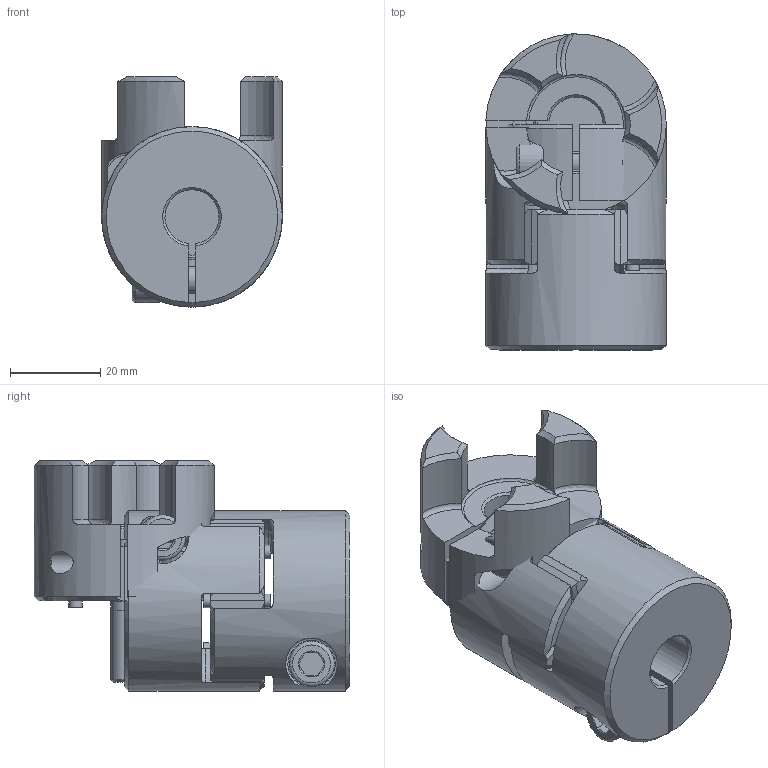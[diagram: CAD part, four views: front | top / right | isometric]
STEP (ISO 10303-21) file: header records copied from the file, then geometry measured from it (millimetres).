
FILE_DESCRIPTION( ( 'Unknown' ), '1' );
FILE_NAME( 'C:/Dokumente und Einstellungen/Sven/Desktop/homepage/cad - homepage/KBE2C/KBE2C-19.stp', 'Unknown', ( 'Unknown' ), ( 'Unknown' ), 'XStep 1.0', 'Unknown', ' ' );
FILE_SCHEMA( ( 'automotive_design' ) );
Length unit declared in the file: millimetre
Products named in the file (5): Assem1; KBE 2C - 19_Nabe; KBE 2C - 19_Nabe-oa0; Zahnkranz_19; ISO EN DIN 4762 M6x18
Bounding box: 40 x 70 x 51 mm (x, y, z)
Volume: 101001.9 mm3; surface area: 39591.5 mm2
Topology: 9 solids, 9 shells, 423 faces, 997 edges, 624 vertices
Faces by surface type: cone 133, plane 128, cylinder 120, torus 42
Full cylindrical faces by diameter (mm): 3 x12, 5 x7, 6 x6, 6.5 x4, 10 x3, 18 x4
Entity records: 6534 total; most frequent: CARTESIAN_POINT 1765, DIRECTION 952, ORIENTED_EDGE 906, EDGE_CURVE 453, AXIS2_PLACEMENT_3D 420, VERTEX_POINT 299, EDGE_LOOP 244, FACE_OUTER_BOUND 219
